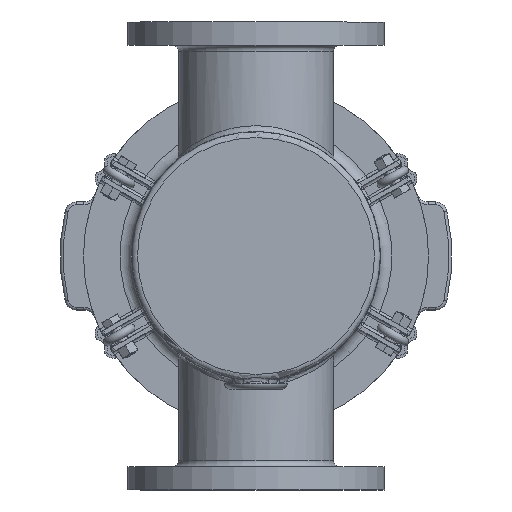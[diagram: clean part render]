
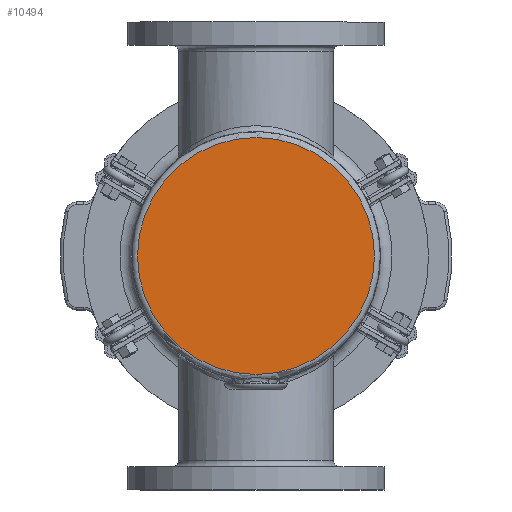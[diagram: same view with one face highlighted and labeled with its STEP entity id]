
A CAD part, front view. The second image highlights one B-rep face of the part: STEP entity #10494.
In plain terms, the highlighted planar face has unit normal (0, -1, 0).
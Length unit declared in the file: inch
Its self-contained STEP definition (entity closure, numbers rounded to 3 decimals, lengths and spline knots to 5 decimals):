
#1331=PLANE('',#11208);
#2236=FACE_OUTER_BOUND('',#2918,.T.);
#2918=EDGE_LOOP('',(#7013));
#3782=CIRCLE('',#11204,5.0625);
#4510=VERTEX_POINT('',#16359);
#5476=EDGE_CURVE('',#4510,#4510,#3782,.T.);
#7013=ORIENTED_EDGE('',*,*,#5476,.F.);
#10494=ADVANCED_FACE('',(#2236),#1331,.F.);
#11204=AXIS2_PLACEMENT_3D('',#16360,#12654,#12655);
#11208=AXIS2_PLACEMENT_3D('',#16365,#12662,#12663);
#12654=DIRECTION('center_axis',(0.,1.,0.));
#12655=DIRECTION('ref_axis',(1.,0.,0.));
#12662=DIRECTION('center_axis',(0.,1.,0.));
#12663=DIRECTION('ref_axis',(0.,0.,1.));
#16359=CARTESIAN_POINT('',(-5.0625,0.,0.));
#16360=CARTESIAN_POINT('Origin',(0.,0.,0.));
#16365=CARTESIAN_POINT('Origin',(0.,0.,0.));
